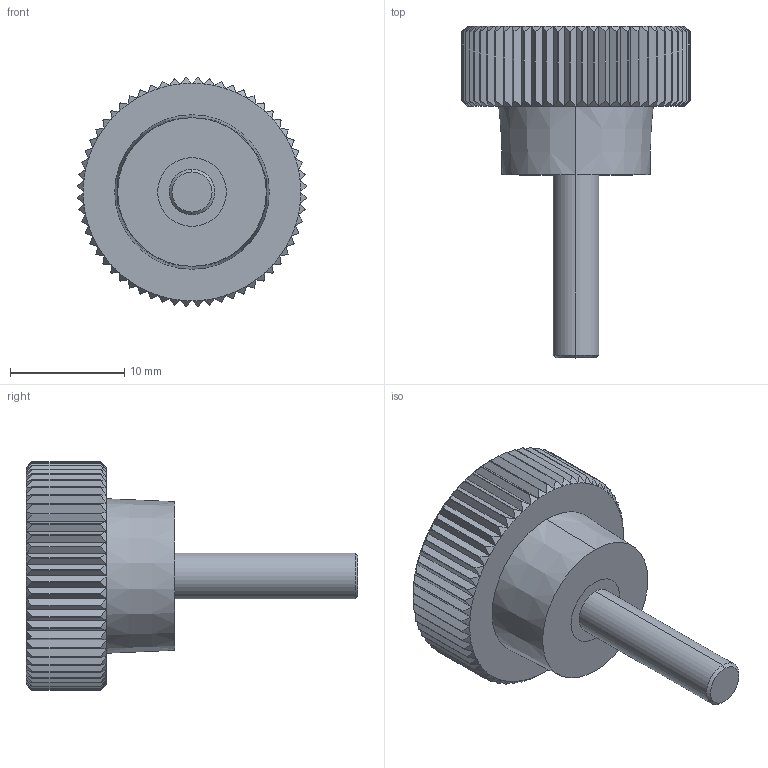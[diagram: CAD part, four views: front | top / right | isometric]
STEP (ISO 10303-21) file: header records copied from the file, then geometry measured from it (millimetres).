
FILE_DESCRIPTION (( 'STEP AP203' ), '1' );
FILE_NAME ('wn4662_20-m4x16.step', '2007-02-15T10:21:48', ( 'Magnus Fahlstrom' ), ( '' ), 'SwSTEP 2.0', 'SolidWorks 2007', '' );
FILE_SCHEMA (( 'CONFIG_CONTROL_DESIGN' ));
Length unit declared in the file: millimetre
Products named in the file (1): wn4662_20-m4x16
Bounding box: 19.98 x 29 x 19.98 mm (x, y, z)
Volume: 3052.1 mm3; surface area: 1893.4 mm2
Topology: 3 solids, 3 shells, 321 faces, 694 edges, 382 vertices
Faces by surface type: plane 129, cone 126, cylinder 66
Entity records: 8787 total; most frequent: CARTESIAN_POINT 2118, ORIENTED_EDGE 1388, DIRECTION 1360, EDGE_CURVE 694, AXIS2_PLACEMENT_3D 584, VERTEX_POINT 382, EDGE_LOOP 324, ADVANCED_FACE 321
